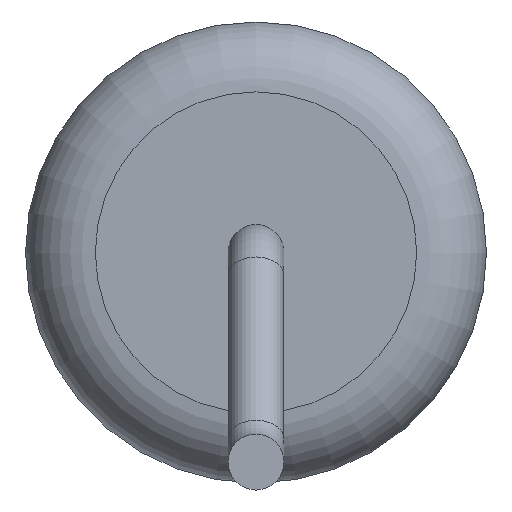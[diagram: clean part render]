
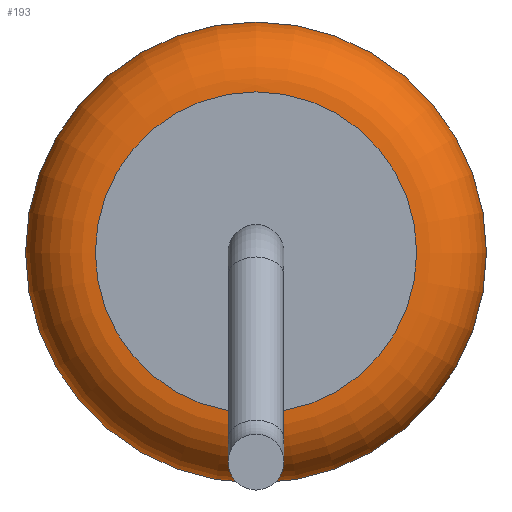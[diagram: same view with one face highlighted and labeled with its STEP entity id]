
A CAD part, left-side view. The second image highlights one B-rep face of the part: STEP entity #193.
In plain terms, the highlighted toroidal (fillet/blend) face has major radius 2.3 mm and minor radius 1 mm.
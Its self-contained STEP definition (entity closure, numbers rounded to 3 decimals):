
#193=ADVANCED_FACE('',(#398,#400),#402,.T.);
#398=FACE_OUTER_BOUND('',#399,.T.);
#399=EDGE_LOOP('',(#497));
#400=FACE_OUTER_BOUND('',#401,.T.);
#401=EDGE_LOOP('',(#498));
#402=TOROIDAL_SURFACE('',#403,2.3,1.);
#403=AXIS2_PLACEMENT_3D('',#404,#405,#406);
#404=CARTESIAN_POINT('',(-5.5,0.,0.));
#405=DIRECTION('',(-1.,0.,0.));
#406=DIRECTION('',(0.,0.,1.));
#497=ORIENTED_EDGE('',*,*,#526,.T.);
#498=ORIENTED_EDGE('',*,*,#527,.F.);
#526=EDGE_CURVE('',#562,#562,#563,.T.);
#527=EDGE_CURVE('',#564,#564,#565,.T.);
#562=VERTEX_POINT('',#648);
#563=CIRCLE('',#649,3.3);
#564=VERTEX_POINT('',#653);
#565=CIRCLE('',#654,2.3);
#648=CARTESIAN_POINT('',(-5.5,0.,3.3));
#649=AXIS2_PLACEMENT_3D('',#650,#651,#652);
#650=CARTESIAN_POINT('',(-5.5,0.,0.));
#651=DIRECTION('',(-1.,0.,0.));
#652=DIRECTION('',(0.,0.,1.));
#653=CARTESIAN_POINT('',(-6.5,0.,2.3));
#654=AXIS2_PLACEMENT_3D('',#655,#656,#657);
#655=CARTESIAN_POINT('',(-6.5,0.,0.));
#656=DIRECTION('',(-1.,0.,0.));
#657=DIRECTION('',(0.,0.,1.));
